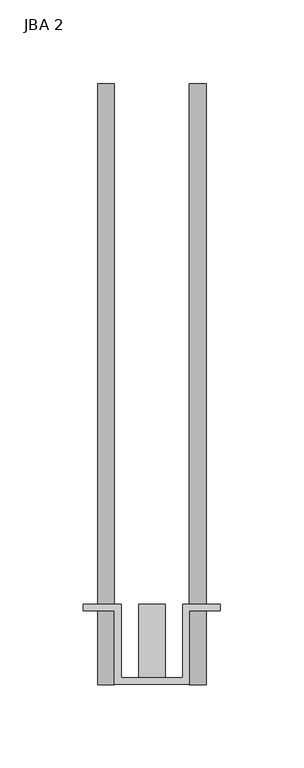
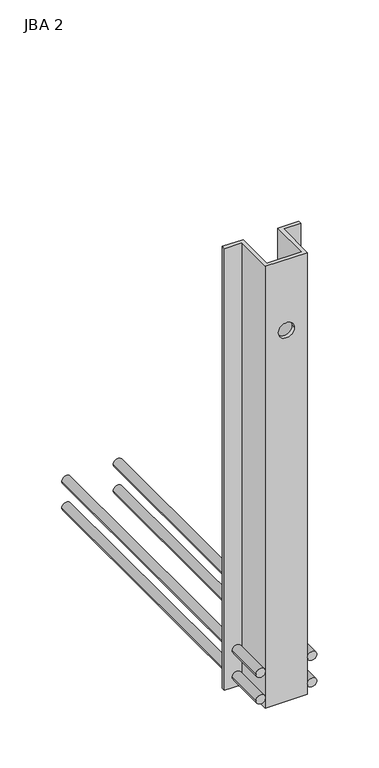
"""IFC4 building model written with IfcOpenShell, lengths in millimetres: fastener geometry, JBA JORDAHL® support corbels_1 : JBA 2."""

from ifc_helpers import new_model, si_unit, point, frame, frame_2d, origin, place, context, project, spatial, polyline, circle_curve, trimmed, segment, composite_curve, outline, extrude, source, transform, mapped, element, save
from ifc_brep_helpers import plane_surface, revolved_surface, advanced_brep


def jba_2_155e2620(model_context):
    return source(origin(), model_context, "Body", "SolidModel", [
        extrude(outline(composite_curve([segment(trimmed(circle_curve(frame_2d((-30.0, -27.5)), 5.0), [point((-30.0, -32.5))], [point((-30.0, -22.5))], False, "CARTESIAN"), True, "CONTINUOUS"), segment(trimmed(circle_curve(frame_2d((-30.0, -27.5)), 5.0), [point((-30.0, -22.5))], [point((-30.0, -32.5))], False, "CARTESIAN"), True, "CONTINUOUS")], self_intersect=False)), frame((0.0, 0.0, 0.0), z_axis=(0.0, 1.0, 0.0), x_axis=(0.0, 0.0, 1.0)), (0.0, 0.0, 1.0), 360.0),
        extrude(outline(composite_curve([segment(trimmed(circle_curve(frame_2d((-30.0, 27.5)), 5.0), [point((-30.0, 22.5))], [point((-30.0, 32.5))], False, "CARTESIAN"), True, "CONTINUOUS"), segment(trimmed(circle_curve(frame_2d((-30.0, 27.5)), 5.0), [point((-30.0, 32.5))], [point((-30.0, 22.5))], False, "CARTESIAN"), True, "CONTINUOUS")], self_intersect=False)), frame((0.0, 0.0, 0.0), z_axis=(0.0, 1.0, 0.0), x_axis=(0.0, 0.0, 1.0)), (0.0, 0.0, 1.0), 360.0),
        extrude(outline(composite_curve([segment(trimmed(circle_curve(frame_2d((-60.0, -27.5)), 5.0), [point((-60.0, -32.5))], [point((-60.0, -22.5))], False, "CARTESIAN"), True, "CONTINUOUS"), segment(trimmed(circle_curve(frame_2d((-60.0, -27.5)), 5.0), [point((-60.0, -22.5))], [point((-60.0, -32.5))], False, "CARTESIAN"), True, "CONTINUOUS")], self_intersect=False)), frame((0.0, 0.0, 0.0), z_axis=(0.0, 1.0, 0.0), x_axis=(0.0, 0.0, 1.0)), (0.0, 0.0, 1.0), 360.0),
        extrude(outline(composite_curve([segment(trimmed(circle_curve(frame_2d((-60.0, 27.5)), 5.0), [point((-60.0, 22.5))], [point((-60.0, 32.5))], False, "CARTESIAN"), True, "CONTINUOUS"), segment(trimmed(circle_curve(frame_2d((-60.0, 27.5)), 5.0), [point((-60.0, 32.5))], [point((-60.0, 22.5))], False, "CARTESIAN"), True, "CONTINUOUS")], self_intersect=False)), frame((0.0, 0.0, 0.0), z_axis=(0.0, 1.0, 0.0), x_axis=(0.0, 0.0, 1.0)), (0.0, 0.0, 1.0), 360.0),
        advanced_brep(
        [(-41.0, 44.0, 428.0), (-22.5, 44.0, 428.0), (-22.5, 0.0, 428.0), (22.5, 0.0, 428.0), (22.5, 44.0, 428.0), (41.0, 44.0, 428.0), (41.0, 48.0, 428.0), (18.5, 48.0, 428.0), (18.5, 4.0, 428.0), (-18.5, 4.0, 428.0), (-18.5, 48.0, 428.0), (-41.0, 48.0, 428.0), (-41.0, 44.0, -72.0), (-41.0, 48.0, -72.0), (-18.5, 48.0, -72.0), (-18.5, 4.0, -72.0), (18.5, 4.0, -72.0), (18.5, 48.0, -72.0), (41.0, 48.0, -72.0), (41.0, 44.0, -72.0), (22.5, 44.0, -72.0), (22.5, 0.0, -72.0), (-22.5, 0.0, -72.0), (-22.5, 44.0, -72.0), (8.5, 0.0, 348.0), (-8.5, 0.0, 348.0), (-8.5, 4.0, 348.0), (8.5, 4.0, 348.0)],
        [
            (0, 1),
            (1, 2),
            (2, 3),
            (3, 4),
            (4, 5),
            (5, 6),
            (6, 7),
            (7, 8),
            (8, 9),
            (9, 10),
            (10, 11),
            (11, 0),
            (12, 13),
            (13, 14),
            (14, 15),
            (15, 16),
            (16, 17),
            (17, 18),
            (18, 19),
            (19, 20),
            (20, 21),
            (21, 22),
            (22, 23),
            (23, 12),
            (0, 12),
            (23, 1),
            (22, 2),
            (21, 3),
            (24, 25, circle_curve(frame((0.0, 0.0, 348.0), z_axis=(0.0, 1.0, 0.0), x_axis=(1.0, 0.0, 0.0)), 8.5)),
            (25, 24, circle_curve(frame((0.0, 0.0, 348.0), z_axis=(0.0, 1.0, 0.0), x_axis=(1.0, 0.0, 0.0)), 8.5)),
            (20, 4),
            (19, 5),
            (18, 6),
            (17, 7),
            (16, 8),
            (15, 9),
            (26, 27, circle_curve(frame((0.0, 4.0, 348.0), z_axis=(0.0, -1.0, 0.0), x_axis=(1.0, 0.0, 0.0)), 8.5)),
            (27, 26, circle_curve(frame((0.0, 4.0, 348.0), z_axis=(0.0, -1.0, 0.0), x_axis=(1.0, 0.0, 0.0)), 8.5)),
            (14, 10),
            (13, 11),
            (24, 27),
            (26, 25),
        ],
        [
            plane_surface(frame((0.0, 48.0, 428.0), z_axis=(0.0, 0.0, 1.0), x_axis=(0.0, -1.0, 0.0))),
            plane_surface(frame((0.0, 48.0, -72.0), z_axis=(0.0, 0.0, -1.0), x_axis=(0.0, -1.0, 0.0))),
            plane_surface(frame((-41.0, 44.0, 428.0), z_axis=(0.0, -1.0, 0.0), x_axis=(0.0, 0.0, -1.0))),
            plane_surface(frame((-22.5, 44.0, 428.0), z_axis=(-1.0, 0.0, 0.0), x_axis=(0.0, 0.0, -1.0))),
            plane_surface(frame((-22.5, 0.0, 428.0), z_axis=(0.0, -1.0, 0.0), x_axis=(0.0, 0.0, -1.0))),
            plane_surface(frame((22.5, 0.0, 428.0), z_axis=(1.0, 0.0, 0.0), x_axis=(0.0, 0.0, -1.0))),
            plane_surface(frame((22.5, 44.0, 428.0), z_axis=(0.0, -1.0, 0.0), x_axis=(0.0, 0.0, -1.0))),
            plane_surface(frame((41.0, 44.0, 428.0), z_axis=(1.0, 0.0, 0.0), x_axis=(0.0, 0.0, -1.0))),
            plane_surface(frame((41.0, 48.0, 428.0), z_axis=(0.0, 1.0, 0.0), x_axis=(0.0, 0.0, -1.0))),
            plane_surface(frame((18.5, 48.0, 428.0), z_axis=(-1.0, 0.0, 0.0), x_axis=(0.0, 0.0, -1.0))),
            plane_surface(frame((18.5, 4.0, 428.0), z_axis=(0.0, 1.0, 0.0), x_axis=(0.0, 0.0, -1.0))),
            plane_surface(frame((-18.5, 4.0, 428.0), z_axis=(1.0, 0.0, 0.0), x_axis=(0.0, 0.0, -1.0))),
            plane_surface(frame((-18.5, 48.0, 428.0), z_axis=(0.0, 1.0, 0.0), x_axis=(0.0, 0.0, -1.0))),
            plane_surface(frame((-41.0, 48.0, 428.0), z_axis=(-1.0, 0.0, 0.0), x_axis=(0.0, 0.0, -1.0))),
            revolved_surface(polyline([(8.5, 0.0, 348.0), (8.5, 4.0, 348.0)]), (0.0, 4.0, 348.0), (0.0, -1.0, 0.0)),
        ],
        [
            (0, [[1, 2, 3, 4, 5, 6, 7, 8, 9, 10, 11, 12]]),
            (1, [[13, 14, 15, 16, 17, 18, 19, 20, 21, 22, 23, 24]]),
            (2, [[-1, 25, -24, 26]]),
            (3, [[-2, -26, -23, 27]]),
            (4, [[-3, -27, -22, 28], [29, 30]]),
            (5, [[-4, -28, -21, 31]]),
            (6, [[-5, -31, -20, 32]]),
            (7, [[-6, -32, -19, 33]]),
            (8, [[-7, -33, -18, 34]]),
            (9, [[-8, -34, -17, 35]]),
            (10, [[-9, -35, -16, 36], [37, 38]]),
            (11, [[-10, -36, -15, 39]]),
            (12, [[-11, -39, -14, 40]]),
            (13, [[-12, -40, -13, -25]]),
            (14, [[41, -37, 42, -29]]),
            (14, [[-41, -30, -42, -38]]),
        ],
    ),
        extrude(outline(composite_curve([segment(trimmed(circle_curve(frame_2d((50.0, 0.0)), 8.0), [point((50.0, -8.0))], [point((50.0, 8.0))], False, "CARTESIAN"), True, "CONTINUOUS"), segment(trimmed(circle_curve(frame_2d((50.0, 0.0)), 8.0), [point((50.0, 8.0))], [point((50.0, -8.0))], False, "CARTESIAN"), True, "CONTINUOUS")], self_intersect=False)), frame((0.0, 4.0, 0.0), z_axis=(0.0, 1.0, 0.0), x_axis=(0.0, 0.0, 1.0)), (0.0, 0.0, 1.0), 44.0),
    ])


if __name__ == "__main__":
    model = new_model("IFC4")
    model_context = context("Model", 3, world=origin())
    ifc_project = project(units=[si_unit("LENGTHUNIT", "METRE", prefix="MILLI")], contexts=[model_context])
    site = spatial("IfcSite", under=ifc_project)
    building = spatial("IfcBuilding", under=site)
    placement = place(None, origin())
    jba_2_shape = jba_2_155e2620(model_context)
    element("IfcFastener", 1, ObjectType="JBA JORDAHL® support corbels_1 : JBA 2", at=placement, inside=building, context=model_context, shape_type="MappedRepresentation", body=[
        mapped(jba_2_shape, transform((0.0, 0.0, 0.0), x_axis=(1.0, 0.0, 0.0), y_axis=(0.0, 1.0, 0.0), z_axis=(0.0, 0.0, 1.0))),
    ])
    save(model, "model.ifc")
